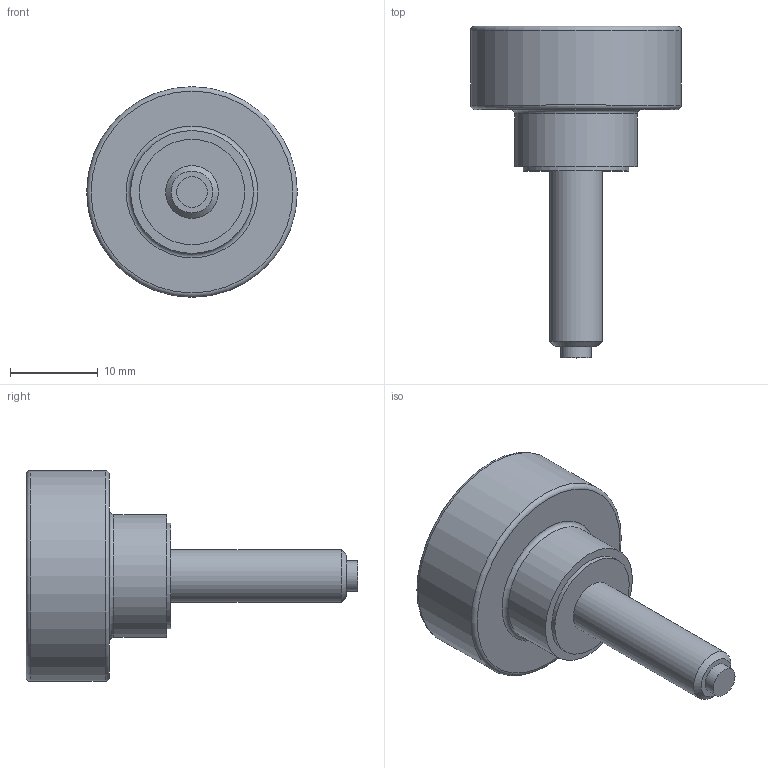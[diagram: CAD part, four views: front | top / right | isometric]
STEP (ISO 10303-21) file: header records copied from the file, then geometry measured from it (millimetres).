
FILE_DESCRIPTION( ( 'STEP AP203' ), '1' );
FILE_NAME( 'C:/Temp/Ganter_Step_05_03_2020/data/2_2/gn_421_10/Hollow knurled knob, with tip GN 421.10-M6-20-KU.stp', '2020-03-05T12:25:33', ( 'License CC BY-ND 4.0' ), ( 'CADENAS' ), ' ', 'PARTsolutions', ' ' );
FILE_SCHEMA( ( 'CONFIG_CONTROL_DESIGN' ) );
Length unit declared in the file: millimetre
Products named in the file (1): _Hollow knurled knob, with tip GN 421.10-M6-20-KU
Bounding box: 24 x 37.8 x 24 mm (x, y, z)
Volume: 4058.7 mm3; surface area: 2715.6 mm2
Topology: 1 solids, 1 shells, 19 faces, 30 edges, 19 vertices
Faces by surface type: plane 8, cylinder 7, torus 3, cone 1
Full cylindrical faces by diameter (mm): 3.5 x1, 6 x1, 10 x1, 12 x1, 14 x1, 20 x1, 24 x1
Entity records: 418 total; most frequent: DIRECTION 76, CARTESIAN_POINT 56, AXIS2_PLACEMENT_3D 38, EDGE_LOOP 36, ORIENTED_EDGE 36, FACE_OUTER_BOUND 29, ADVANCED_FACE 19, EDGE_CURVE 18
